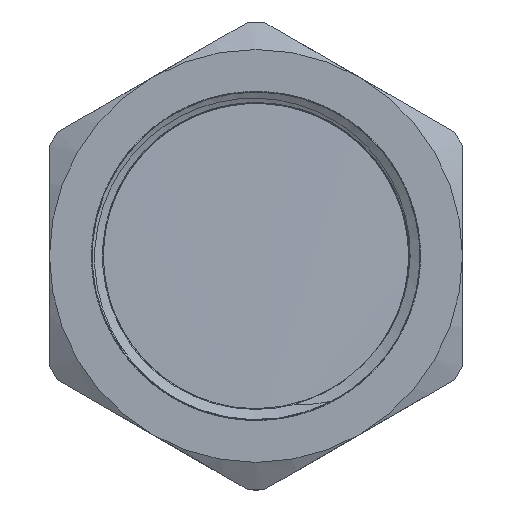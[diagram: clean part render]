
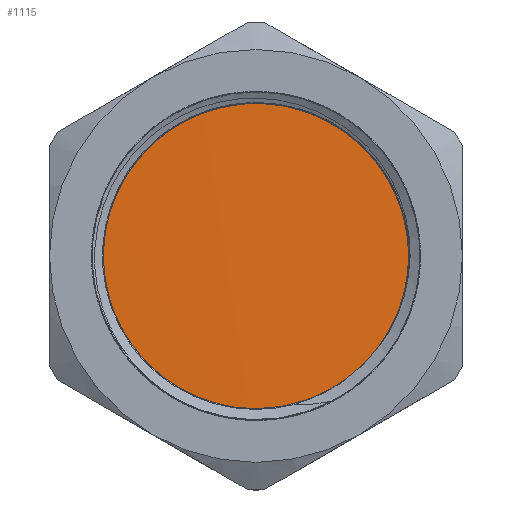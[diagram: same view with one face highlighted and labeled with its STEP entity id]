
A CAD part, top view. The second image highlights one B-rep face of the part: STEP entity #1115.
In plain terms, the highlighted cylindrical face has radius 28.3 mm (diameter 56.6 mm), a full revolution.
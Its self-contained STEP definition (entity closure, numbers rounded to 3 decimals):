
#26=B_SPLINE_CURVE_WITH_KNOTS('',3,(#1744,#1745,#1746,#1747,#1748,#1749,
#1750,#1751,#1752,#1753,#1754,#1755,#1756,#1757,#1758,#1759,#1760,#1761,
#1762,#1763,#1764,#1765,#1766,#1767,#1768,#1769,#1770,#1771,#1772,#1773,
#1774,#1775,#1776,#1777,#1778,#1779,#1780,#1781,#1782,#1783,#1784,#1785,
#1786),.UNSPECIFIED.,.F.,.F.,(4,3,3,3,3,3,3,3,3,3,3,3,3,3,4),(-31.416,
-31.239,-30.749,-30.259,-29.769,
-29.279,-28.789,-28.3,-27.81,
-27.32,-26.83,-26.34,-25.85,
-25.361,-25.133),.UNSPECIFIED.);
#123=CYLINDRICAL_SURFACE('',#1237,28.3);
#168=LINE('',#1741,#210);
#169=LINE('',#1743,#211);
#210=VECTOR('',#1428,28.3);
#211=VECTOR('',#1429,28.3);
#271=FACE_OUTER_BOUND('',#343,.T.);
#343=EDGE_LOOP('',(#870,#871,#872));
#492=VERTEX_POINT('',#1694);
#493=VERTEX_POINT('',#1740);
#494=VERTEX_POINT('',#1742);
#630=EDGE_CURVE('',#493,#492,#168,.T.);
#631=EDGE_CURVE('',#493,#494,#169,.T.);
#632=EDGE_CURVE('',#494,#492,#26,.T.);
#870=ORIENTED_EDGE('',*,*,#630,.F.);
#871=ORIENTED_EDGE('',*,*,#631,.T.);
#872=ORIENTED_EDGE('',*,*,#632,.T.);
#1115=ADVANCED_FACE('',(#271),#123,.T.);
#1237=AXIS2_PLACEMENT_3D('',#1739,#1426,#1427);
#1426=DIRECTION('center_axis',(0.,0.,-1.));
#1427=DIRECTION('ref_axis',(0.,1.,0.));
#1428=DIRECTION('',(0.,0.,-1.));
#1429=DIRECTION('',(0.,0.,1.));
#1694=CARTESIAN_POINT('',(0.,-28.3,6.945));
#1739=CARTESIAN_POINT('Origin',(0.,0.,8.65));
#1740=CARTESIAN_POINT('',(0.,-28.3,9.237));
#1741=CARTESIAN_POINT('',(0.,-28.3,8.65));
#1742=CARTESIAN_POINT('',(0.,-28.3,9.256));
#1743=CARTESIAN_POINT('',(0.,-28.3,8.65));
#1744=CARTESIAN_POINT('Ctrl Pts',(0.,-28.298,
9.256));
#1745=CARTESIAN_POINT('Ctrl Pts',(-1.673,-28.3,9.235));
#1746=CARTESIAN_POINT('Ctrl Pts',(-3.345,-28.154,9.213));
#1747=CARTESIAN_POINT('Ctrl Pts',(-4.991,-27.859,9.191));
#1748=CARTESIAN_POINT('Ctrl Pts',(-9.538,-27.044,9.131));
#1749=CARTESIAN_POINT('Ctrl Pts',(-13.882,-25.093,9.071));
#1750=CARTESIAN_POINT('Ctrl Pts',(-17.511,-22.235,9.011));
#1751=CARTESIAN_POINT('Ctrl Pts',(-21.14,-19.376,8.951));
#1752=CARTESIAN_POINT('Ctrl Pts',(-24.055,-15.611,8.891));
#1753=CARTESIAN_POINT('Ctrl Pts',(-25.913,-11.381,8.831));
#1754=CARTESIAN_POINT('Ctrl Pts',(-27.771,-7.152,8.771));
#1755=CARTESIAN_POINT('Ctrl Pts',(-28.571,-2.458,8.711));
#1756=CARTESIAN_POINT('Ctrl Pts',(-28.221,2.149,8.651));
#1757=CARTESIAN_POINT('Ctrl Pts',(-27.87,6.755,8.59));
#1758=CARTESIAN_POINT('Ctrl Pts',(-26.368,11.274,8.53));
#1759=CARTESIAN_POINT('Ctrl Pts',(-23.891,15.173,8.47));
#1760=CARTESIAN_POINT('Ctrl Pts',(-21.415,19.073,8.41));
#1761=CARTESIAN_POINT('Ctrl Pts',(-17.963,22.354,8.35));
#1762=CARTESIAN_POINT('Ctrl Pts',(-13.943,24.629,8.29));
#1763=CARTESIAN_POINT('Ctrl Pts',(-9.923,26.905,8.23));
#1764=CARTESIAN_POINT('Ctrl Pts',(-5.334,28.176,8.17));
#1765=CARTESIAN_POINT('Ctrl Pts',(-0.716,28.293,8.11));
#1766=CARTESIAN_POINT('Ctrl Pts',(3.902,28.41,8.05));
#1767=CARTESIAN_POINT('Ctrl Pts',(8.55,27.373,7.99));
#1768=CARTESIAN_POINT('Ctrl Pts',(12.68,25.303,7.93));
#1769=CARTESIAN_POINT('Ctrl Pts',(16.81,23.233,7.87));
#1770=CARTESIAN_POINT('Ctrl Pts',(20.423,20.131,7.81));
#1771=CARTESIAN_POINT('Ctrl Pts',(23.093,16.362,7.75));
#1772=CARTESIAN_POINT('Ctrl Pts',(25.764,12.593,7.69));
#1773=CARTESIAN_POINT('Ctrl Pts',(27.493,8.156,7.629));
#1774=CARTESIAN_POINT('Ctrl Pts',(28.076,3.573,7.569));
#1775=CARTESIAN_POINT('Ctrl Pts',(28.659,-1.01,7.509));
#1776=CARTESIAN_POINT('Ctrl Pts',(28.097,-5.738,7.449));
#1777=CARTESIAN_POINT('Ctrl Pts',(26.455,-10.056,7.389));
#1778=CARTESIAN_POINT('Ctrl Pts',(24.814,-14.375,7.329));
#1779=CARTESIAN_POINT('Ctrl Pts',(22.093,-18.283,7.269));
#1780=CARTESIAN_POINT('Ctrl Pts',(18.613,-21.321,7.209));
#1781=CARTESIAN_POINT('Ctrl Pts',(15.133,-24.359,7.149));
#1782=CARTESIAN_POINT('Ctrl Pts',(10.894,-26.527,7.089));
#1783=CARTESIAN_POINT('Ctrl Pts',(6.393,-27.571,7.029));
#1784=CARTESIAN_POINT('Ctrl Pts',(4.3,-28.056,7.001));
#1785=CARTESIAN_POINT('Ctrl Pts',(2.15,-28.298,6.973));
#1786=CARTESIAN_POINT('Ctrl Pts',(0.,-28.298,
6.945));
